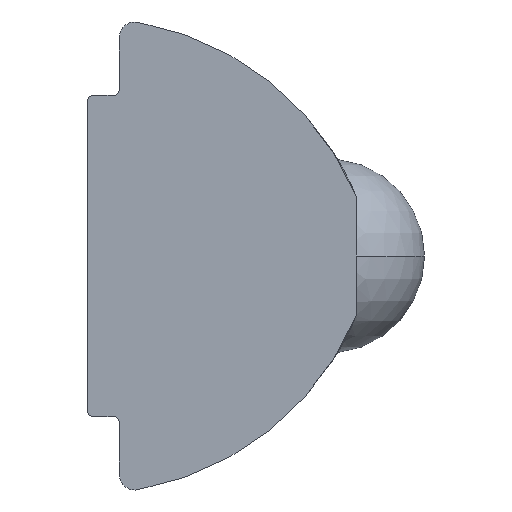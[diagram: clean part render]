
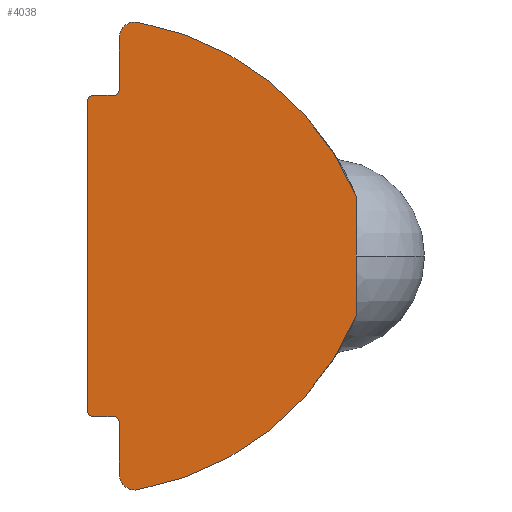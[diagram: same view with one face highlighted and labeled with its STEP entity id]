
A CAD part, left-side view. The second image highlights one B-rep face of the part: STEP entity #4038.
In plain terms, the highlighted planar face has unit normal (-1, 0, 0).
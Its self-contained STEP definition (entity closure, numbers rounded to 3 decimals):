
#7 = CARTESIAN_POINT ( 'NONE',  ( 0., 5.98, -4.05 ) ) ;
#10 = CARTESIAN_POINT ( 'NONE',  ( 0., 6.13, -4.2 ) ) ;
#12 = PLANE ( 'NONE',  #3839 ) ;
#28 = VERTEX_POINT ( 'NONE', #3316 ) ;
#56 = CIRCLE ( 'NONE', #1313, 0.4 ) ;
#65 = DIRECTION ( 'NONE',  ( 1., 0., 0. ) ) ;
#89 = CARTESIAN_POINT ( 'NONE',  ( 0., 6.78, 4.05 ) ) ;
#115 = DIRECTION ( 'NONE',  ( 0., 0., -1. ) ) ;
#195 = FACE_OUTER_BOUND ( 'NONE', #3997, .T. ) ;
#217 = CIRCLE ( 'NONE', #1232, 7.355 ) ;
#238 = EDGE_CURVE ( 'NONE', #28, #814, #2467, .T. ) ;
#277 = ORIENTED_EDGE ( 'NONE', *, *, #238, .F. ) ;
#291 = EDGE_CURVE ( 'NONE', #5139, #1389, #4414, .T. ) ;
#393 = CIRCLE ( 'NONE', #1916, 0.15 ) ;
#460 = DIRECTION ( 'NONE',  ( 0., 0., -1. ) ) ;
#479 = AXIS2_PLACEMENT_3D ( 'NONE', #4326, #1953, #3555 ) ;
#484 = DIRECTION ( 'NONE',  ( 0., 0., -1. ) ) ;
#547 = VERTEX_POINT ( 'NONE', #734 ) ;
#552 = CARTESIAN_POINT ( 'NONE',  ( 0., 6.63, -4.05 ) ) ;
#554 = CIRCLE ( 'NONE', #3674, 0.15 ) ;
#558 = CIRCLE ( 'NONE', #3586, 7.355 ) ;
#616 = ORIENTED_EDGE ( 'NONE', *, *, #4787, .F. ) ;
#638 = VECTOR ( 'NONE', #3977, 1000. ) ;
#665 = CARTESIAN_POINT ( 'NONE',  ( 0., 5.98, -5.5 ) ) ;
#734 = CARTESIAN_POINT ( 'NONE',  ( 0., 0., 1.5 ) ) ;
#752 = ORIENTED_EDGE ( 'NONE', *, *, #4010, .F. ) ;
#775 = ORIENTED_EDGE ( 'NONE', *, *, #4276, .F. ) ;
#809 = CARTESIAN_POINT ( 'NONE',  ( 0., 6.13, 4.05 ) ) ;
#814 = VERTEX_POINT ( 'NONE', #809 ) ;
#895 = VECTOR ( 'NONE', #4812, 1000. ) ;
#985 = VERTEX_POINT ( 'NONE', #2766 ) ;
#986 = LINE ( 'NONE', #2551, #1905 ) ;
#990 = ORIENTED_EDGE ( 'NONE', *, *, #2372, .F. ) ;
#1094 = DIRECTION ( 'NONE',  ( 1., 0., 0. ) ) ;
#1105 = DIRECTION ( 'NONE',  ( 0., 0., -1. ) ) ;
#1179 = ORIENTED_EDGE ( 'NONE', *, *, #3104, .F. ) ;
#1232 = AXIS2_PLACEMENT_3D ( 'NONE', #4708, #1882, #1962 ) ;
#1313 = AXIS2_PLACEMENT_3D ( 'NONE', #4048, #4841, #3230 ) ;
#1389 = VERTEX_POINT ( 'NONE', #3631 ) ;
#1392 = VECTOR ( 'NONE', #3618, 1000. ) ;
#1398 = AXIS2_PLACEMENT_3D ( 'NONE', #10, #2563, #3768 ) ;
#1436 = DIRECTION ( 'NONE',  ( 0., 1., 0. ) ) ;
#1457 = EDGE_CURVE ( 'NONE', #3737, #3028, #986, .T. ) ;
#1501 = CARTESIAN_POINT ( 'NONE',  ( 0., 6.63, 3.9 ) ) ;
#1568 = DIRECTION ( 'NONE',  ( 1., 0., 0. ) ) ;
#1571 = CIRCLE ( 'NONE', #1398, 0.15 ) ;
#1591 = DIRECTION ( 'NONE',  ( 1., 0., 0. ) ) ;
#1669 = CARTESIAN_POINT ( 'NONE',  ( 0., 0., -1.5 ) ) ;
#1757 = ORIENTED_EDGE ( 'NONE', *, *, #291, .F. ) ;
#1784 = ORIENTED_EDGE ( 'NONE', *, *, #4983, .F. ) ;
#1824 = VECTOR ( 'NONE', #484, 1000. ) ;
#1882 = DIRECTION ( 'NONE',  ( 1., 0., 0. ) ) ;
#1905 = VECTOR ( 'NONE', #1436, 1000. ) ;
#1916 = AXIS2_PLACEMENT_3D ( 'NONE', #1501, #4722, #1105 ) ;
#1950 = ORIENTED_EDGE ( 'NONE', *, *, #2183, .T. ) ;
#1953 = DIRECTION ( 'NONE',  ( 1., 0., 0. ) ) ;
#1962 = DIRECTION ( 'NONE',  ( 0., 0., 1. ) ) ;
#2028 = VERTEX_POINT ( 'NONE', #3408 ) ;
#2175 = CARTESIAN_POINT ( 'NONE',  ( 0., 0., 1.5 ) ) ;
#2183 = EDGE_CURVE ( 'NONE', #4006, #3028, #554, .T. ) ;
#2195 = DIRECTION ( 'NONE',  ( 0., 0., -1. ) ) ;
#2245 = AXIS2_PLACEMENT_3D ( 'NONE', #4450, #65, #2195 ) ;
#2363 = CARTESIAN_POINT ( 'NONE',  ( 0., 5.58, 5.5 ) ) ;
#2372 = EDGE_CURVE ( 'NONE', #3349, #2028, #217, .T. ) ;
#2419 = DIRECTION ( 'NONE',  ( 0., 0., -1. ) ) ;
#2441 = DIRECTION ( 'NONE',  ( 0., -1., 0. ) ) ;
#2467 = LINE ( 'NONE', #89, #3831 ) ;
#2520 = DIRECTION ( 'NONE',  ( -1., 0., 0. ) ) ;
#2551 = CARTESIAN_POINT ( 'NONE',  ( 0., 6.78, -4.05 ) ) ;
#2563 = DIRECTION ( 'NONE',  ( 1., 0., 0. ) ) ;
#2602 = CARTESIAN_POINT ( 'NONE',  ( 0., 6.78, -3.9 ) ) ;
#2625 = CARTESIAN_POINT ( 'NONE',  ( 0., 6.78, -1.351 ) ) ;
#2731 = LINE ( 'NONE', #3594, #895 ) ;
#2764 = CARTESIAN_POINT ( 'NONE',  ( 0., 6.13, -4.05 ) ) ;
#2766 = CARTESIAN_POINT ( 'NONE',  ( 0., 5.58, 5.9 ) ) ;
#2790 = CARTESIAN_POINT ( 'NONE',  ( 0., 5.98, 4.2 ) ) ;
#2794 = VERTEX_POINT ( 'NONE', #5155 ) ;
#2797 = LINE ( 'NONE', #3365, #638 ) ;
#2881 = EDGE_CURVE ( 'NONE', #4006, #2794, #2731, .T. ) ;
#2998 = ORIENTED_EDGE ( 'NONE', *, *, #3142, .T. ) ;
#3014 = CARTESIAN_POINT ( 'NONE',  ( 0., 5.98, 5.5 ) ) ;
#3028 = VERTEX_POINT ( 'NONE', #552 ) ;
#3075 = EDGE_CURVE ( 'NONE', #3737, #1389, #1571, .T. ) ;
#3079 = ORIENTED_EDGE ( 'NONE', *, *, #2881, .F. ) ;
#3104 = EDGE_CURVE ( 'NONE', #4430, #985, #56, .T. ) ;
#3142 = EDGE_CURVE ( 'NONE', #3633, #814, #4350, .T. ) ;
#3230 = DIRECTION ( 'NONE',  ( 0., 0., -1. ) ) ;
#3248 = ORIENTED_EDGE ( 'NONE', *, *, #1457, .F. ) ;
#3316 = CARTESIAN_POINT ( 'NONE',  ( 0., 6.63, 4.05 ) ) ;
#3349 = VERTEX_POINT ( 'NONE', #1669 ) ;
#3365 = CARTESIAN_POINT ( 'NONE',  ( 0., 5.98, 4.05 ) ) ;
#3408 = CARTESIAN_POINT ( 'NONE',  ( 0., 5.511, -5.894 ) ) ;
#3555 = DIRECTION ( 'NONE',  ( 0., 0., 1. ) ) ;
#3586 = AXIS2_PLACEMENT_3D ( 'NONE', #2625, #1094, #4609 ) ;
#3594 = CARTESIAN_POINT ( 'NONE',  ( 0., 6.78, 4.05 ) ) ;
#3618 = DIRECTION ( 'NONE',  ( 0., 0., 1. ) ) ;
#3631 = CARTESIAN_POINT ( 'NONE',  ( 0., 5.98, -4.2 ) ) ;
#3633 = VERTEX_POINT ( 'NONE', #2790 ) ;
#3674 = AXIS2_PLACEMENT_3D ( 'NONE', #4655, #2520, #115 ) ;
#3737 = VERTEX_POINT ( 'NONE', #2764 ) ;
#3768 = DIRECTION ( 'NONE',  ( 0., 0., -1. ) ) ;
#3831 = VECTOR ( 'NONE', #2441, 1000. ) ;
#3839 = AXIS2_PLACEMENT_3D ( 'NONE', #2363, #1568, #2419 ) ;
#3977 = DIRECTION ( 'NONE',  ( 0., 0., 1. ) ) ;
#3997 = EDGE_LOOP ( 'NONE', ( #3079, #1950, #3248, #4267, #1757, #616, #990, #4026, #752, #775, #1179, #1784, #2998, #277, #4401 ) ) ;
#4006 = VERTEX_POINT ( 'NONE', #2602 ) ;
#4010 = EDGE_CURVE ( 'NONE', #5221, #547, #558, .T. ) ;
#4026 = ORIENTED_EDGE ( 'NONE', *, *, #4434, .F. ) ;
#4038 = ADVANCED_FACE ( 'NONE', ( #195 ), #12, .F. ) ;
#4048 = CARTESIAN_POINT ( 'NONE',  ( 0., 5.58, 5.5 ) ) ;
#4073 = CARTESIAN_POINT ( 'NONE',  ( 0., 5.58, 5.5 ) ) ;
#4267 = ORIENTED_EDGE ( 'NONE', *, *, #3075, .T. ) ;
#4276 = EDGE_CURVE ( 'NONE', #985, #5221, #5200, .T. ) ;
#4326 = CARTESIAN_POINT ( 'NONE',  ( 0., 5.58, -5.5 ) ) ;
#4350 = CIRCLE ( 'NONE', #2245, 0.15 ) ;
#4401 = ORIENTED_EDGE ( 'NONE', *, *, #4756, .T. ) ;
#4414 = LINE ( 'NONE', #7, #1392 ) ;
#4430 = VERTEX_POINT ( 'NONE', #3014 ) ;
#4434 = EDGE_CURVE ( 'NONE', #547, #3349, #4601, .T. ) ;
#4450 = CARTESIAN_POINT ( 'NONE',  ( 0., 6.13, 4.2 ) ) ;
#4601 = LINE ( 'NONE', #2175, #1824 ) ;
#4609 = DIRECTION ( 'NONE',  ( 0., 0., -1. ) ) ;
#4655 = CARTESIAN_POINT ( 'NONE',  ( 0., 6.63, -3.9 ) ) ;
#4708 = CARTESIAN_POINT ( 'NONE',  ( 0., 6.78, 1.351 ) ) ;
#4722 = DIRECTION ( 'NONE',  ( -1., 0., 0. ) ) ;
#4756 = EDGE_CURVE ( 'NONE', #28, #2794, #393, .T. ) ;
#4787 = EDGE_CURVE ( 'NONE', #2028, #5139, #5028, .T. ) ;
#4812 = DIRECTION ( 'NONE',  ( 0., 0., 1. ) ) ;
#4841 = DIRECTION ( 'NONE',  ( 1., 0., 0. ) ) ;
#4863 = AXIS2_PLACEMENT_3D ( 'NONE', #4073, #1591, #460 ) ;
#4871 = CARTESIAN_POINT ( 'NONE',  ( 0., 5.511, 5.894 ) ) ;
#4983 = EDGE_CURVE ( 'NONE', #3633, #4430, #2797, .T. ) ;
#5028 = CIRCLE ( 'NONE', #479, 0.4 ) ;
#5139 = VERTEX_POINT ( 'NONE', #665 ) ;
#5155 = CARTESIAN_POINT ( 'NONE',  ( 0., 6.78, 3.9 ) ) ;
#5200 = CIRCLE ( 'NONE', #4863, 0.4 ) ;
#5221 = VERTEX_POINT ( 'NONE', #4871 ) ;
